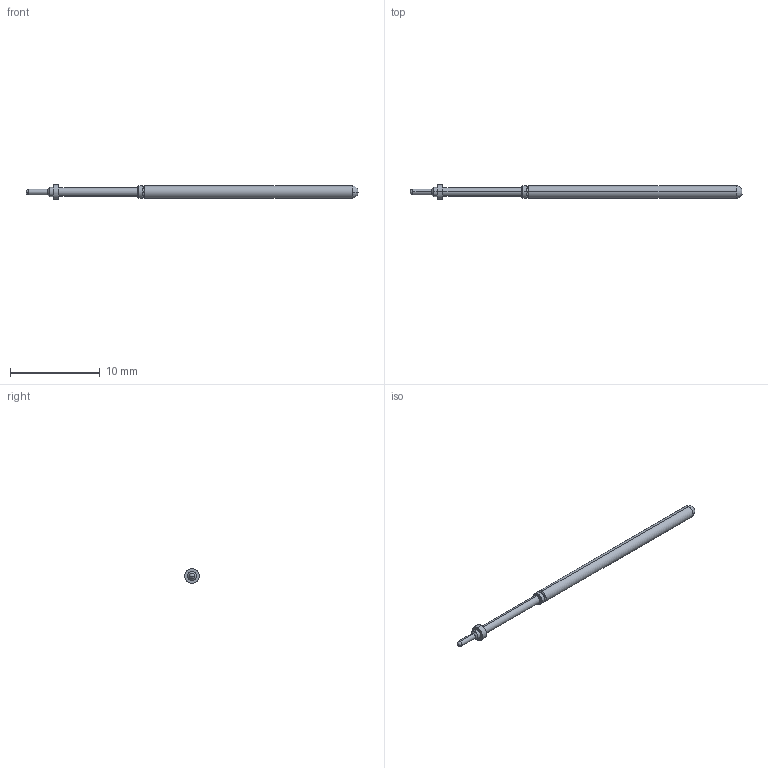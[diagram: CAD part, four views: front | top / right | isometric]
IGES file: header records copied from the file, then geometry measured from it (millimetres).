
Start section: SolidWorks IGES file using analytic representation for surfaces
Global section: file name: Z:\probe solid model mockups\Solidworks models\LTP-25\LTP-25TJ.IGS; native system: SolidWorks 2006 by SolidWorks Corporation; preprocessor: SolidWorks 2006 by SolidWorks Corporation; author: tsakatani; date: 071214.143459; units: inch
Bounding box: 37.08 x 1.65 x 1.65 mm (x, y, z)
Surface area: 145.3 mm2 (no closed solid volume)
Topology: 0 solids, 0 shells, 30 faces, 224 edges, 222 vertices
Faces by surface type: revolution 22, bspline 8
